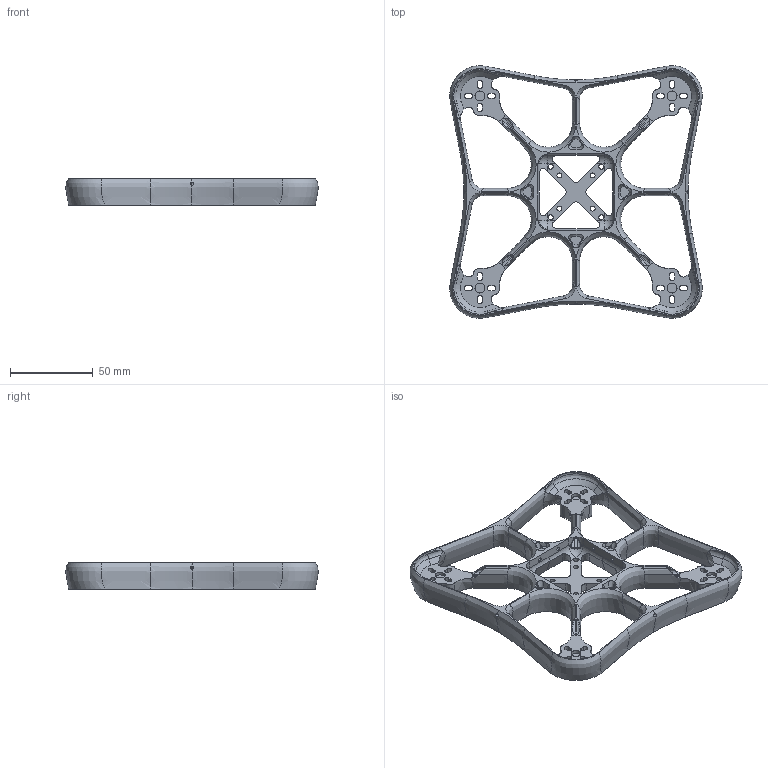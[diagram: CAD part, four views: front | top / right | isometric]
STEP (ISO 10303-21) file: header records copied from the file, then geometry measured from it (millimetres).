
FILE_DESCRIPTION(('FreeCAD Model'),'2;1');
FILE_NAME('Open CASCADE Shape Model','2023-03-30T23:58:42',(''),(''), 'Open CASCADE STEP processor 7.6','FreeCAD','Unknown');
FILE_SCHEMA(('AUTOMOTIVE_DESIGN { 1 0 10303 214 1 1 1 1 }'));
Products named in the file (1): Frame116mm
Bounding box: 152.51 x 152.51 x 16 mm (x, y, z)
Volume: 75633.8 mm3; surface area: 48094.6 mm2
Topology: 1 solids, 1 shells, 609 faces, 1640 edges, 1010 vertices
Faces by surface type: bspline 240, cylinder 158, plane 143, cone 48, torus 16, sphere 4
Full cylindrical faces by diameter (mm): 2 x8, 3 x8, 6 x12
Entity records: 82274 total; most frequent: CARTESIAN_POINT 53738, DIRECTION 4134, ORIENTED_EDGE 3272, PCURVE 3272, DEFINITIONAL_REPRESENTATION 3272, LINE 2302, VECTOR 2302, EDGE_CURVE 1636
